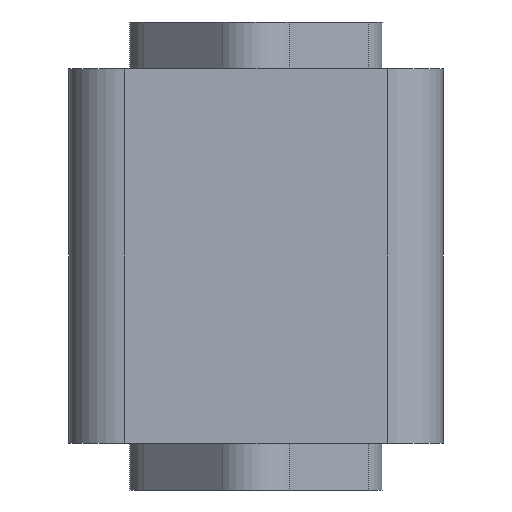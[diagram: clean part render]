
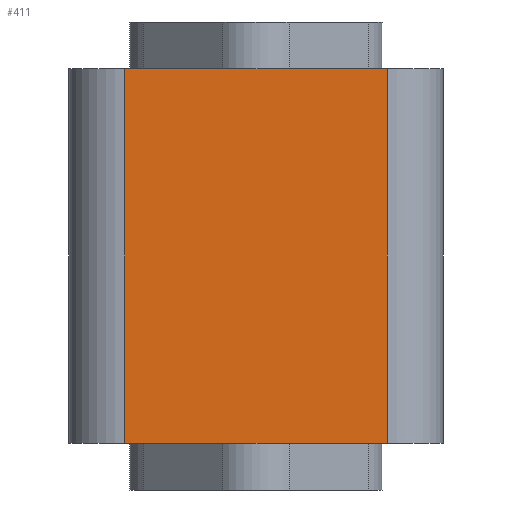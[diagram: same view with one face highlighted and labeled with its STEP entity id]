
A CAD part, front view. The second image highlights one B-rep face of the part: STEP entity #411.
In plain terms, the highlighted planar face has unit normal (0, -1, 0).
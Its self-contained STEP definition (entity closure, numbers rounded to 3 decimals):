
#346=CARTESIAN_POINT('',(7.,-10.,20.0));
#347=VERTEX_POINT('',#346);
#355=CARTESIAN_POINT('',(7.,-10.,0.0));
#356=VERTEX_POINT('',#355);
#357=CARTESIAN_POINT('',(7.,-10.,0.0));
#358=DIRECTION('',(0.0,0.0,1.0));
#359=VECTOR('',#358,20.0);
#360=LINE('',#357,#359);
#361=EDGE_CURVE('',#356,#347,#360,.T.);
#381=CARTESIAN_POINT('',(7.,-10.,0.0));
#382=DIRECTION('',(0.0,-1.0,0.0));
#383=DIRECTION('',(0.0,0.0,-1.0));
#384=AXIS2_PLACEMENT_3D('',#381,#382,#383);
#385=PLANE('',#384);
#386=CARTESIAN_POINT('',(-7.,-10.,20.0));
#387=VERTEX_POINT('',#386);
#388=CARTESIAN_POINT('',(7.,-10.,20.0));
#389=DIRECTION('',(-1.0,0.0,0.0));
#390=VECTOR('',#389,14.);
#391=LINE('',#388,#390);
#392=EDGE_CURVE('',#347,#387,#391,.T.);
#393=ORIENTED_EDGE('',*,*,#392,.T.);
#394=CARTESIAN_POINT('',(-7.,-10.,0.0));
#395=VERTEX_POINT('',#394);
#396=CARTESIAN_POINT('',(-7.,-10.,0.0));
#397=DIRECTION('',(0.0,0.0,1.0));
#398=VECTOR('',#397,20.0);
#399=LINE('',#396,#398);
#400=EDGE_CURVE('',#395,#387,#399,.T.);
#401=ORIENTED_EDGE('',*,*,#400,.F.);
#402=CARTESIAN_POINT('',(-7.,-10.,0.0));
#403=DIRECTION('',(1.0,0.0,0.0));
#404=VECTOR('',#403,14.);
#405=LINE('',#402,#404);
#406=EDGE_CURVE('',#395,#356,#405,.T.);
#407=ORIENTED_EDGE('',*,*,#406,.T.);
#408=ORIENTED_EDGE('',*,*,#361,.T.);
#409=EDGE_LOOP('',(#393,#401,#407,#408));
#410=FACE_OUTER_BOUND('',#409,.T.);
#411=ADVANCED_FACE('',(#410),#385,.T.);
